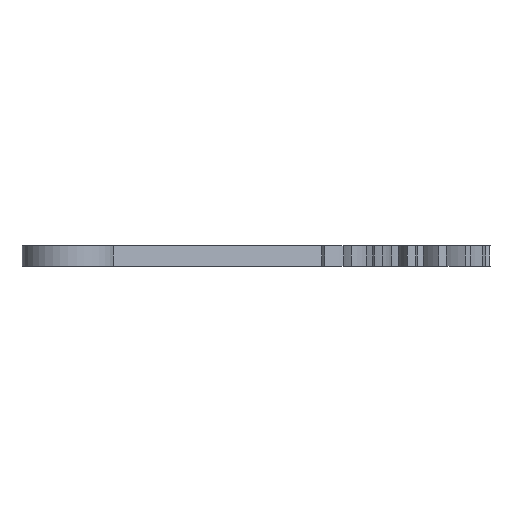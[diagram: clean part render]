
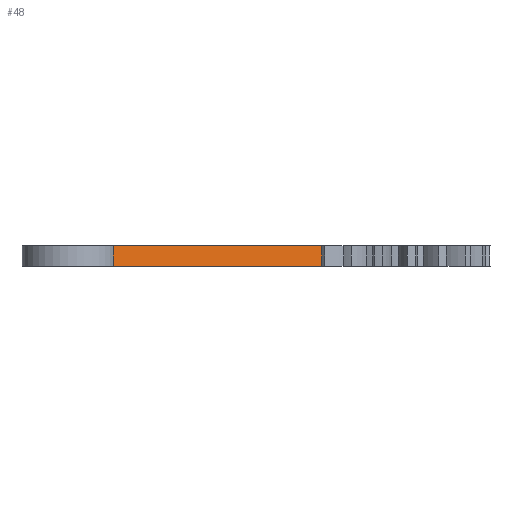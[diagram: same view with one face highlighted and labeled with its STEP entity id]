
A CAD part, left-side view. The second image highlights one B-rep face of the part: STEP entity #48.
In plain terms, the highlighted planar face has unit normal (-0.94, -0.342, 0).
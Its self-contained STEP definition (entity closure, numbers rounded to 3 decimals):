
#41=PLANE('',#1395);
#48=ADVANCED_FACE('',(#188),#41,.T.);
#188=FACE_OUTER_BOUND('',#258,.T.);
#258=EDGE_LOOP('',(#494,#495,#496,#497));
#336=LINE('',#2109,#410);
#337=LINE('',#2113,#411);
#338=LINE('',#2116,#412);
#339=LINE('',#2117,#413);
#410=VECTOR('',#1617,1.);
#411=VECTOR('',#1622,1.);
#412=VECTOR('',#1623,1.);
#413=VECTOR('',#1624,1.);
#494=ORIENTED_EDGE('',*,*,#1051,.F.);
#495=ORIENTED_EDGE('',*,*,#1052,.F.);
#496=ORIENTED_EDGE('',*,*,#1049,.F.);
#497=ORIENTED_EDGE('',*,*,#1053,.T.);
#906=VERTEX_POINT('',#2108);
#907=VERTEX_POINT('',#2110);
#908=VERTEX_POINT('',#2114);
#909=VERTEX_POINT('',#2115);
#1049=EDGE_CURVE('',#906,#907,#336,.T.);
#1051=EDGE_CURVE('',#908,#909,#337,.T.);
#1052=EDGE_CURVE('',#907,#908,#338,.T.);
#1053=EDGE_CURVE('',#906,#909,#339,.T.);
#1395=AXIS2_PLACEMENT_3D('',#2118,#1625,#1626);
#1617=DIRECTION('',(0.,0.,1.));
#1622=DIRECTION('',(0.,0.,-1.));
#1623=DIRECTION('',(0.342,-0.94,0.));
#1624=DIRECTION('',(0.342,-0.94,0.));
#1625=DIRECTION('',(-0.94,-0.342,0.));
#1626=DIRECTION('',(-0.342,0.94,0.));
#2108=CARTESIAN_POINT('',(-10.074,20.734,0.));
#2109=CARTESIAN_POINT('',(-10.074,20.734,0.));
#2110=CARTESIAN_POINT('',(-10.074,20.734,1.5));
#2113=CARTESIAN_POINT('',(-4.484,5.375,0.));
#2114=CARTESIAN_POINT('',(-4.484,5.375,1.5));
#2115=CARTESIAN_POINT('',(-4.484,5.375,0.));
#2116=CARTESIAN_POINT('',(-10.953,23.15,1.5));
#2117=CARTESIAN_POINT('',(-10.953,23.15,0.));
#2118=CARTESIAN_POINT('',(-10.074,20.734,0.));
